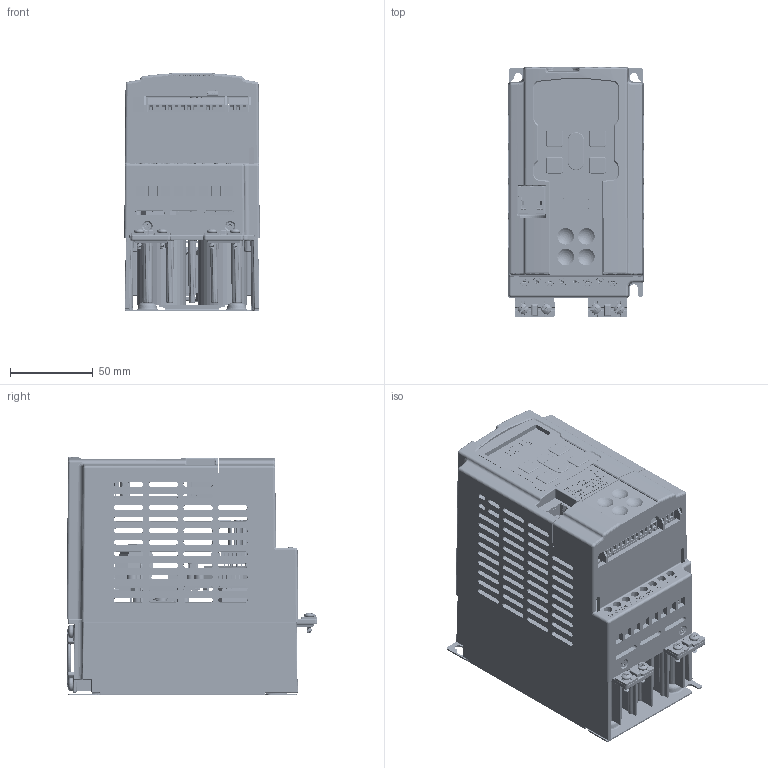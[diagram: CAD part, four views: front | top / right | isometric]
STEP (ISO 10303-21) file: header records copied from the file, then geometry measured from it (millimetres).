
FILE_DESCRIPTION(/* description */ (''),/* implementation_level */ '2;1');
FILE_NAME(/* name */ 'C:\Users\943103\Desktop\final ac 20 step\DIDI AC15 Frame 01.stp',/* time_stamp */ '2023-09-19T22:42:56+01:00',/* author */ ('943103'),/* organization */ (''),/* preprocessor_version */ 'ST-DEVELOPER v18',/* originating_system */ 'Autodesk Inventor 2020',/* authorisation */ '');
FILE_SCHEMA (('CONFIG_CONTROL_DESIGN'));
Products named in the file (1): Assembly985_Shrinkwrap_2
Bounding box: 81.97 x 151.6 x 144.25 mm (x, y, z)
Surface area: 327898.5 mm2 (no closed solid volume)
Topology: 0 solids, 1 shells, 17046 faces, 46854 edges, 30339 vertices
Faces by surface type: plane 10356, cylinder 3350, bspline 1791, cone 677, torus 511, sphere 361
Full cylindrical faces by diameter (mm): 0.4 x40, 0.406 x91, 0.5 x55, 0.63 x2, 0.64 x34, 0.65 x20, 0.762 x45, 0.787 x4, 0.8 x8, 0.994 x45, 1 x5, 1.016 x14, 1.2 x63, 1.35 x1, 1.4 x51, 1.45 x4, 1.5 x1, 1.6 x2, 1.788 x24, 1.8 x16, 1.915 x27, 2 x19, 2.3 x12, 2.35 x78, 2.5 x30, 2.6 x1, 2.8 x4, 2.9 x19, 3 x86, 3.2 x4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
Entity records: 659019 total; most frequent: CARTESIAN_POINT 215328, ORIENTED_EDGE 93482, DIRECTION 81457, EDGE_CURVE 46741, LINE 31105, VECTOR 31105, VERTEX_POINT 30340, AXIS2_PLACEMENT_3D 25176
